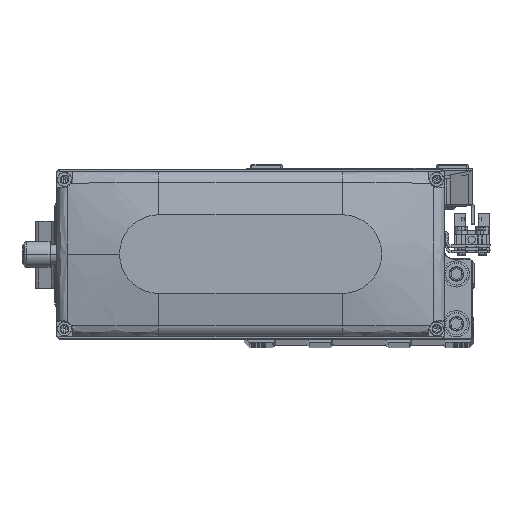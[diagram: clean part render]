
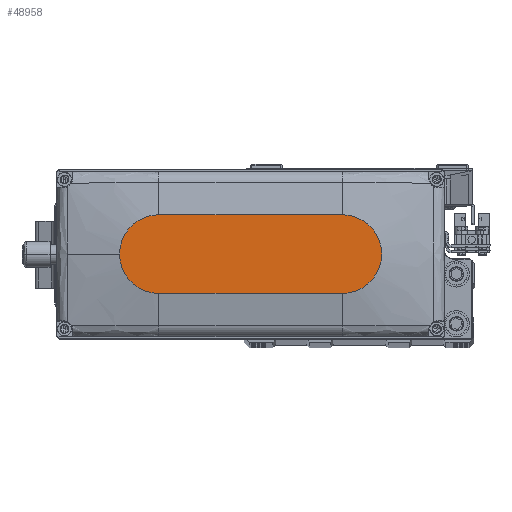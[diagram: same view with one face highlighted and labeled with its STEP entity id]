
A CAD part, top view. The second image highlights one B-rep face of the part: STEP entity #48958.
In plain terms, the highlighted planar face has unit normal (0, 0, 1).
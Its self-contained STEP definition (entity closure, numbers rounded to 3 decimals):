
#377 = DIRECTION ( 'NONE',  ( 0., 0., 1. ) ) ;
#3189 = EDGE_LOOP ( 'NONE', ( #27581, #6611, #17780, #50508, #14404 ) ) ;
#3733 = CIRCLE ( 'NONE', #33057, 15. ) ;
#4548 = CARTESIAN_POINT ( 'NONE',  ( 35., 0., 35. ) ) ;
#4644 = AXIS2_PLACEMENT_3D ( 'NONE', #36334, #377, #16399 ) ;
#6611 = ORIENTED_EDGE ( 'NONE', *, *, #17291, .T. ) ;
#7432 = VECTOR ( 'NONE', #28274, 1000. ) ;
#9620 = DIRECTION ( 'NONE',  ( 1., 0., 0. ) ) ;
#10339 = CARTESIAN_POINT ( 'NONE',  ( 35., 15., 35. ) ) ;
#11870 = DIRECTION ( 'NONE',  ( 1., 0., 0. ) ) ;
#12260 = CARTESIAN_POINT ( 'NONE',  ( -35., -15., 35. ) ) ;
#14404 = ORIENTED_EDGE ( 'NONE', *, *, #31687, .T. ) ;
#15669 = CIRCLE ( 'NONE', #45005, 15. ) ;
#15804 = PLANE ( 'NONE',  #40511 ) ;
#16399 = DIRECTION ( 'NONE',  ( 1., 0., 0. ) ) ;
#17291 = EDGE_CURVE ( 'NONE', #26351, #23670, #15669, .T. ) ;
#17647 = CARTESIAN_POINT ( 'NONE',  ( -35., 15., 35. ) ) ;
#17780 = ORIENTED_EDGE ( 'NONE', *, *, #36059, .T. ) ;
#19407 = LINE ( 'NONE', #35402, #27345 ) ;
#20565 = DIRECTION ( 'NONE',  ( 0., 0., 1. ) ) ;
#23670 = VERTEX_POINT ( 'NONE', #41224 ) ;
#24735 = VERTEX_POINT ( 'NONE', #10339 ) ;
#26351 = VERTEX_POINT ( 'NONE', #17647 ) ;
#27298 = CIRCLE ( 'NONE', #4644, 15. ) ;
#27345 = VECTOR ( 'NONE', #51410, 1000. ) ;
#27581 = ORIENTED_EDGE ( 'NONE', *, *, #28201, .T. ) ;
#28028 = VERTEX_POINT ( 'NONE', #49868 ) ;
#28201 = EDGE_CURVE ( 'NONE', #24735, #26351, #19407, .T. ) ;
#28274 = DIRECTION ( 'NONE',  ( 1., 0., 0. ) ) ;
#29574 = CARTESIAN_POINT ( 'NONE',  ( -35., 0., 35. ) ) ;
#31687 = EDGE_CURVE ( 'NONE', #48072, #24735, #27298, .T. ) ;
#31808 = CARTESIAN_POINT ( 'NONE',  ( 0., 0., 35. ) ) ;
#33057 = AXIS2_PLACEMENT_3D ( 'NONE', #4548, #20565, #36571 ) ;
#35402 = CARTESIAN_POINT ( 'NONE',  ( -35., 15., 35. ) ) ;
#36059 = EDGE_CURVE ( 'NONE', #23670, #28028, #48224, .T. ) ;
#36334 = CARTESIAN_POINT ( 'NONE',  ( 35., 0., 35. ) ) ;
#36571 = DIRECTION ( 'NONE',  ( 1., 0., 0. ) ) ;
#40260 = CARTESIAN_POINT ( 'NONE',  ( 50., 0., 35. ) ) ;
#40511 = AXIS2_PLACEMENT_3D ( 'NONE', #31808, #47834, #11870 ) ;
#41224 = CARTESIAN_POINT ( 'NONE',  ( -35., -15., 35. ) ) ;
#41848 = EDGE_CURVE ( 'NONE', #28028, #48072, #3733, .T. ) ;
#45005 = AXIS2_PLACEMENT_3D ( 'NONE', #29574, #45604, #9620 ) ;
#45604 = DIRECTION ( 'NONE',  ( 0., 0., 1. ) ) ;
#47834 = DIRECTION ( 'NONE',  ( 0., 0., 1. ) ) ;
#48072 = VERTEX_POINT ( 'NONE', #40260 ) ;
#48224 = LINE ( 'NONE', #12260, #7432 ) ;
#48958 = ADVANCED_FACE ( 'NONE', ( #51739 ), #15804, .T. ) ;
#49868 = CARTESIAN_POINT ( 'NONE',  ( 35., -15., 35. ) ) ;
#50508 = ORIENTED_EDGE ( 'NONE', *, *, #41848, .T. ) ;
#51410 = DIRECTION ( 'NONE',  ( -1., 0., 0. ) ) ;
#51739 = FACE_OUTER_BOUND ( 'NONE', #3189, .T. ) ;
